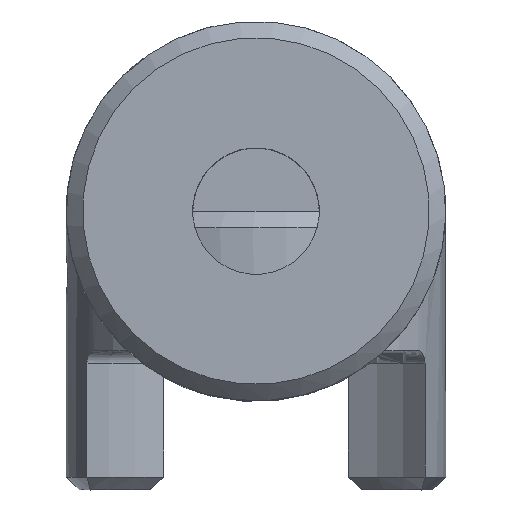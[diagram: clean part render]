
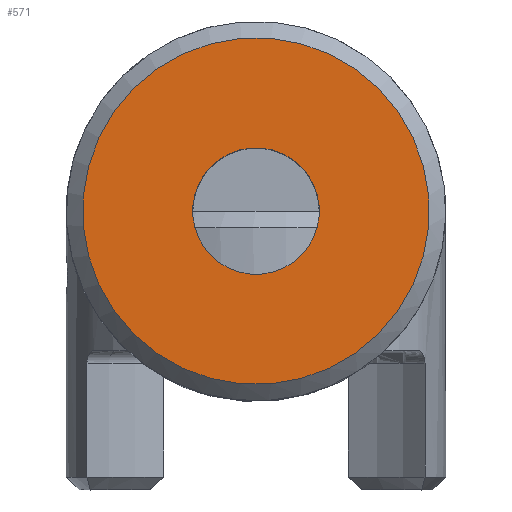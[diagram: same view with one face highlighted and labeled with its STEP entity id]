
A CAD part, top view. The second image highlights one B-rep face of the part: STEP entity #571.
In plain terms, the highlighted planar face has unit normal (0, 0, 1) as drawn and (0, 1, 0) by its records, which use the part's own axes.
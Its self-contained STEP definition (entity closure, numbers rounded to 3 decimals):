
#571 = ADVANCED_FACE( '', ( #1033, #1034 ), #1035, .T. );
#1033 = FACE_OUTER_BOUND( '', #1254, .T. );
#1034 = FACE_BOUND( '', #1255, .T. );
#1035 = PLANE( '', #1256 );
#1254 = EDGE_LOOP( '', ( #1656 ) );
#1255 = EDGE_LOOP( '', ( #1657 ) );
#1256 = AXIS2_PLACEMENT_3D( '', #1658, #1659, #1660 );
#1656 = ORIENTED_EDGE( '', *, *, #2141, .T. );
#1657 = ORIENTED_EDGE( '', *, *, #2142, .T. );
#1658 = CARTESIAN_POINT( '', ( 0., 0., 0. ) );
#1659 = DIRECTION( '', ( 0., 1., 0. ) );
#1660 = DIRECTION( '', ( 1., 0., 0. ) );
#2141 = EDGE_CURVE( '', #2438, #2438, #2439, .T. );
#2142 = EDGE_CURVE( '', #2440, #2440, #2441, .F. );
#2438 = VERTEX_POINT( '', #2744 );
#2439 = CIRCLE( '', #2745, 13.7 );
#2440 = VERTEX_POINT( '', #2746 );
#2441 = CIRCLE( '', #2747, 5. );
#2744 = CARTESIAN_POINT( '', ( 0., 0., 13.7 ) );
#2745 = AXIS2_PLACEMENT_3D( '', #2842, #2843, #2844 );
#2746 = CARTESIAN_POINT( '', ( 0., 0., 5. ) );
#2747 = AXIS2_PLACEMENT_3D( '', #2845, #2846, #2847 );
#2842 = CARTESIAN_POINT( '', ( 0., 0., 0. ) );
#2843 = DIRECTION( '', ( 0., 1., 0. ) );
#2844 = DIRECTION( '', ( 0., 0., 1. ) );
#2845 = CARTESIAN_POINT( '', ( 0., 0., 0. ) );
#2846 = DIRECTION( '', ( 0., 1., 0. ) );
#2847 = DIRECTION( '', ( 0., 0., 1. ) );
